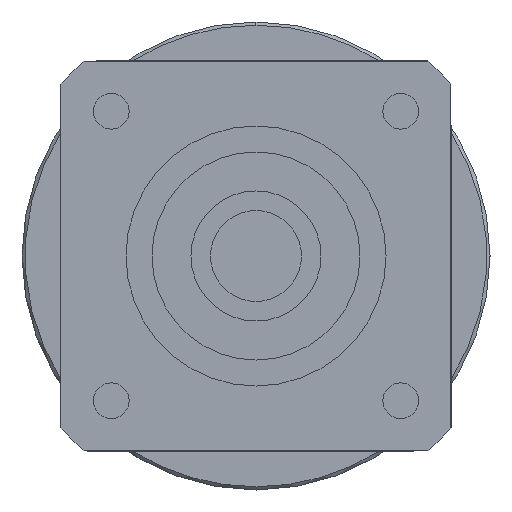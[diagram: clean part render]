
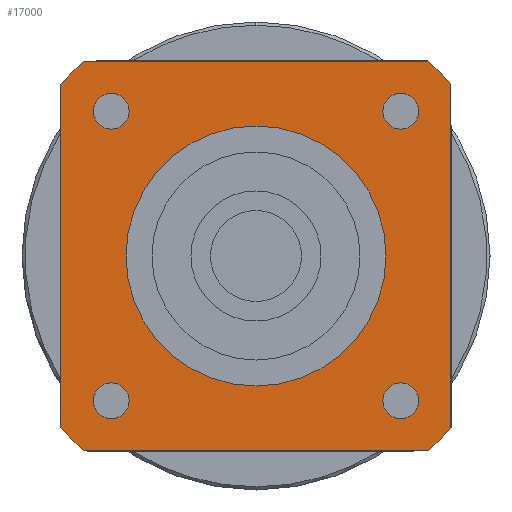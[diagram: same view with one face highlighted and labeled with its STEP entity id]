
A CAD part, left-side view. The second image highlights one B-rep face of the part: STEP entity #17000.
In plain terms, the highlighted planar face has unit normal (-1, 0, 0) as drawn and (0, 0, -1) by its records, which use the part's own axes.
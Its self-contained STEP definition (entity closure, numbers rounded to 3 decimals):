
#12050=CARTESIAN_POINT('',(26.458,30.,-91.));
#12060=VERTEX_POINT('',#12050);
#12330=CARTESIAN_POINT('',(-26.458,30.,-91.));
#12340=VERTEX_POINT('',#12330);
#12370=CARTESIAN_POINT('',(30.,30.,-91.));
#12380=DIRECTION('',(-1.,0.,0.));
#12390=VECTOR('',#12380,1000.);
#12400=LINE('',#12370,#12390);
#12410=EDGE_CURVE('',#12060,#12340,#12400,.T.);
#12570=CARTESIAN_POINT('',(-30.,-26.458,-91.));
#12580=VERTEX_POINT('',#12570);
#12740=CARTESIAN_POINT('',(-26.458,-30.,-91.));
#12750=VERTEX_POINT('',#12740);
#12780=CARTESIAN_POINT('',(0.,0.,
-91.));
#12790=DIRECTION('',(0.,0.,1.));
#12800=DIRECTION('',(0.,-1.,0.));
#12810=AXIS2_PLACEMENT_3D('',#12780,#12790,#12800);
#12820=CIRCLE('',#12810,40.);
#12830=EDGE_CURVE('',#12580,#12750,#12820,.T.);
#14670=CARTESIAN_POINT('',(30.,-26.458,-91.));
#14680=VERTEX_POINT('',#14670);
#14860=CARTESIAN_POINT('',(30.,26.458,-91.));
#14870=VERTEX_POINT('',#14860);
#14900=CARTESIAN_POINT('',(30.,-30.,-91.));
#14910=DIRECTION('',(0.,1.,0.));
#14920=VECTOR('',#14910,1000.);
#14930=LINE('',#14900,#14920);
#14940=EDGE_CURVE('',#14680,#14870,#14930,.T.);
#15520=CARTESIAN_POINT('',(26.458,-30.,-91.));
#15530=VERTEX_POINT('',#15520);
#15560=CARTESIAN_POINT('',(-30.,-30.,-91.));
#15570=DIRECTION('',(1.,0.,0.));
#15580=VECTOR('',#15570,1000.);
#15590=LINE('',#15560,#15580);
#15600=EDGE_CURVE('',#12750,#15530,#15590,.T.);
#15650=CARTESIAN_POINT('',(-30.,30.,-91.));
#15660=DIRECTION('',(0.,0.,1.));
#15670=DIRECTION('',(-1.,0.,0.));
#15680=AXIS2_PLACEMENT_3D('',#15650,#15660,#15670);
#15690=PLANE('',#15680);
#15700=CARTESIAN_POINT('',(22.274,-22.274,-91.));
#15710=DIRECTION('',(0.,0.,-1.));
#15720=DIRECTION('',(1.,0.,0.));
#15730=AXIS2_PLACEMENT_3D('',#15700,#15710,#15720);
#15740=CIRCLE('',#15730,2.75);
#15750=CARTESIAN_POINT('',(25.024,-22.274,-91.));
#15760=VERTEX_POINT('',#15750);
#15770=CARTESIAN_POINT('',(22.274,-25.024,-91.));
#15780=VERTEX_POINT('',#15770);
#15790=EDGE_CURVE('',#15760,#15780,#15740,.T.);
#15800=ORIENTED_EDGE('',*,*,#15790,.F.);
#15810=CARTESIAN_POINT('',(22.274,-19.524,-91.));
#15820=VERTEX_POINT('',#15810);
#15830=EDGE_CURVE('',#15780,#15820,#15740,.T.);
#15840=ORIENTED_EDGE('',*,*,#15830,.F.);
#15850=EDGE_CURVE('',#15820,#15760,#15740,.T.);
#15860=ORIENTED_EDGE('',*,*,#15850,.F.);
#15870=EDGE_LOOP('',(#15860,#15840,#15800));
#15880=FACE_BOUND('',#15870,.T.);
#15890=CARTESIAN_POINT('',(22.274,22.274,-91.));
#15900=DIRECTION('',(0.,0.,-1.));
#15910=DIRECTION('',(0.,1.,0.));
#15920=AXIS2_PLACEMENT_3D('',#15890,#15900,#15910);
#15930=CIRCLE('',#15920,2.75);
#15940=CARTESIAN_POINT('',(22.274,25.024,-91.));
#15950=VERTEX_POINT('',#15940);
#15960=CARTESIAN_POINT('',(25.024,22.274,-91.));
#15970=VERTEX_POINT('',#15960);
#15980=EDGE_CURVE('',#15950,#15970,#15930,.T.);
#15990=ORIENTED_EDGE('',*,*,#15980,.F.);
#16000=CARTESIAN_POINT('',(19.524,22.274,-91.));
#16010=VERTEX_POINT('',#16000);
#16020=EDGE_CURVE('',#15970,#16010,#15930,.T.);
#16030=ORIENTED_EDGE('',*,*,#16020,.F.);
#16040=EDGE_CURVE('',#16010,#15950,#15930,.T.);
#16050=ORIENTED_EDGE('',*,*,#16040,.F.);
#16060=EDGE_LOOP('',(#16050,#16030,#15990));
#16070=FACE_BOUND('',#16060,.T.);
#16080=CARTESIAN_POINT('',(-22.274,22.274,-91.));
#16090=DIRECTION('',(0.,0.,-1.));
#16100=DIRECTION('',(-1.,0.,0.));
#16110=AXIS2_PLACEMENT_3D('',#16080,#16090,#16100);
#16120=CIRCLE('',#16110,2.75);
#16130=CARTESIAN_POINT('',(-25.024,22.274,-91.));
#16140=VERTEX_POINT('',#16130);
#16150=CARTESIAN_POINT('',(-22.274,25.024,-91.));
#16160=VERTEX_POINT('',#16150);
#16170=EDGE_CURVE('',#16140,#16160,#16120,.T.);
#16180=ORIENTED_EDGE('',*,*,#16170,.F.);
#16190=CARTESIAN_POINT('',(-22.274,19.524,-91.));
#16200=VERTEX_POINT('',#16190);
#16210=EDGE_CURVE('',#16160,#16200,#16120,.T.);
#16220=ORIENTED_EDGE('',*,*,#16210,.F.);
#16230=EDGE_CURVE('',#16200,#16140,#16120,.T.);
#16240=ORIENTED_EDGE('',*,*,#16230,.F.);
#16250=EDGE_LOOP('',(#16240,#16220,#16180));
#16260=FACE_BOUND('',#16250,.T.);
#16270=CARTESIAN_POINT('',(-22.274,-22.274,-91.));
#16280=DIRECTION('',(0.,0.,-1.));
#16290=DIRECTION('',(0.,-1.,0.));
#16300=AXIS2_PLACEMENT_3D('',#16270,#16280,#16290);
#16310=CIRCLE('',#16300,2.75);
#16320=CARTESIAN_POINT('',(-22.274,-25.024,-91.));
#16330=VERTEX_POINT('',#16320);
#16340=CARTESIAN_POINT('',(-25.024,-22.274,-91.));
#16350=VERTEX_POINT('',#16340);
#16360=EDGE_CURVE('',#16330,#16350,#16310,.T.);
#16370=ORIENTED_EDGE('',*,*,#16360,.F.);
#16380=CARTESIAN_POINT('',(-19.524,-22.274,-91.));
#16390=VERTEX_POINT('',#16380);
#16400=EDGE_CURVE('',#16350,#16390,#16310,.T.);
#16410=ORIENTED_EDGE('',*,*,#16400,.F.);
#16420=EDGE_CURVE('',#16390,#16330,#16310,.T.);
#16430=ORIENTED_EDGE('',*,*,#16420,.F.);
#16440=EDGE_LOOP('',(#16430,#16410,#16370));
#16450=FACE_BOUND('',#16440,.T.);
#16460=ORIENTED_EDGE('',*,*,#12830,.F.);
#16470=ORIENTED_EDGE('',*,*,#15600,.F.);
#16480=CARTESIAN_POINT('',(0.,0.,
-91.));
#16490=DIRECTION('',(0.,0.,1.));
#16500=DIRECTION('',(0.,-1.,0.));
#16510=AXIS2_PLACEMENT_3D('',#16480,#16490,#16500);
#16520=CIRCLE('',#16510,40.);
#16530=EDGE_CURVE('',#15530,#14680,#16520,.T.);
#16540=ORIENTED_EDGE('',*,*,#16530,.F.);
#16550=ORIENTED_EDGE('',*,*,#14940,.F.);
#16560=CARTESIAN_POINT('',(0.,0.,
-91.));
#16570=DIRECTION('',(0.,0.,1.));
#16580=DIRECTION('',(0.,-1.,0.));
#16590=AXIS2_PLACEMENT_3D('',#16560,#16570,#16580);
#16600=CIRCLE('',#16590,40.);
#16610=EDGE_CURVE('',#14870,#12060,#16600,.T.);
#16620=ORIENTED_EDGE('',*,*,#16610,.F.);
#16630=ORIENTED_EDGE('',*,*,#12410,.F.);
#16640=CARTESIAN_POINT('',(0.,0.,
-91.));
#16650=DIRECTION('',(0.,0.,1.));
#16660=DIRECTION('',(0.,-1.,0.));
#16670=AXIS2_PLACEMENT_3D('',#16640,#16650,#16660);
#16680=CIRCLE('',#16670,40.);
#16690=CARTESIAN_POINT('',(-30.,26.458,-91.));
#16700=VERTEX_POINT('',#16690);
#16710=EDGE_CURVE('',#12340,#16700,#16680,.T.);
#16720=ORIENTED_EDGE('',*,*,#16710,.F.);
#16730=CARTESIAN_POINT('',(-30.,30.,-91.));
#16740=DIRECTION('',(0.,-1.,0.));
#16750=VECTOR('',#16740,1000.);
#16760=LINE('',#16730,#16750);
#16770=EDGE_CURVE('',#16700,#12580,#16760,.T.);
#16780=ORIENTED_EDGE('',*,*,#16770,.F.);
#16790=EDGE_LOOP('',(#16780,#16720,#16630,#16620,#16550,#16540,#16470,
#16460));
#16800=FACE_OUTER_BOUND('',#16790,.T.);
#16810=CARTESIAN_POINT('',(0.,0.,
-91.));
#16820=DIRECTION('',(0.,0.,1.));
#16830=DIRECTION('',(0.,-1.,0.));
#16840=AXIS2_PLACEMENT_3D('',#16810,#16820,#16830);
#16850=CIRCLE('',#16840,20.);
#16860=CARTESIAN_POINT('',(20.,0.,-91.));
#16870=VERTEX_POINT('',#16860);
#16880=CARTESIAN_POINT('',(-20.,0.,-91.));
#16890=VERTEX_POINT('',#16880);
#16900=EDGE_CURVE('',#16870,#16890,#16850,.T.);
#16910=ORIENTED_EDGE('',*,*,#16900,.T.);
#16920=CARTESIAN_POINT('',(0.,-20.,-91.));
#16930=VERTEX_POINT('',#16920);
#16940=EDGE_CURVE('',#16930,#16870,#16850,.T.);
#16950=ORIENTED_EDGE('',*,*,#16940,.T.);
#16960=EDGE_CURVE('',#16890,#16930,#16850,.T.);
#16970=ORIENTED_EDGE('',*,*,#16960,.T.);
#16980=EDGE_LOOP('',(#16970,#16950,#16910));
#16990=FACE_BOUND('',#16980,.T.);
#17000=ADVANCED_FACE('',(#15880,#16070,#16260,#16450,#16800,#16990),
#15690,.F.);
